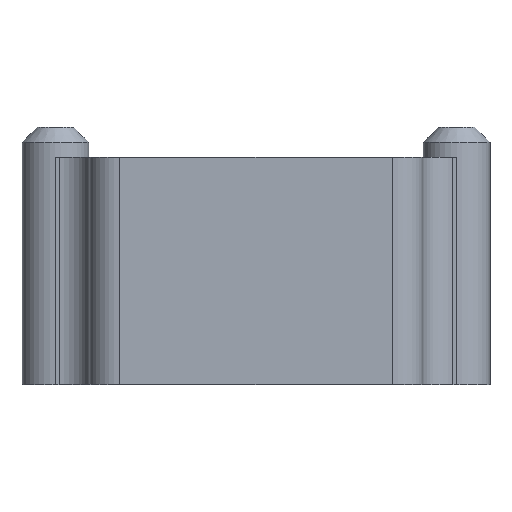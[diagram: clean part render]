
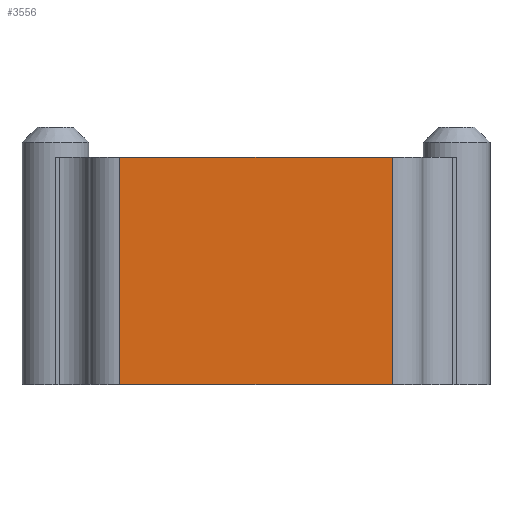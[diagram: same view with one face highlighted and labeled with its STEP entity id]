
A CAD part, top view. The second image highlights one B-rep face of the part: STEP entity #3556.
In plain terms, the highlighted planar face has unit normal (0, 0, 1).
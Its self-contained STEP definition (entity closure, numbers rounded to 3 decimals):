
#15 = PLANE ( 'NONE',  #3919 ) ;
#81 = DIRECTION ( 'NONE',  ( 0., -1., 0. ) ) ;
#220 = LINE ( 'NONE', #843, #1333 ) ;
#229 = EDGE_CURVE ( 'NONE', #1973, #427, #308, .T. ) ;
#308 = LINE ( 'NONE', #4784, #3622 ) ;
#427 = VERTEX_POINT ( 'NONE', #4664 ) ;
#465 = DIRECTION ( 'NONE',  ( 0., 0., -1. ) ) ;
#843 = CARTESIAN_POINT ( 'NONE',  ( 18., 15., 16.8 ) ) ;
#999 = DIRECTION ( 'NONE',  ( 1., 0., 0. ) ) ;
#1322 = ORIENTED_EDGE ( 'NONE', *, *, #2332, .T. ) ;
#1333 = VECTOR ( 'NONE', #4284, 1000. ) ;
#1503 = VECTOR ( 'NONE', #999, 1000. ) ;
#1664 = CARTESIAN_POINT ( 'NONE',  ( 18., 15., 16.8 ) ) ;
#1743 = CARTESIAN_POINT ( 'NONE',  ( -18., 15., 16.8 ) ) ;
#1973 = VERTEX_POINT ( 'NONE', #1743 ) ;
#1992 = EDGE_CURVE ( 'NONE', #427, #2798, #2133, .T. ) ;
#2133 = LINE ( 'NONE', #4340, #1503 ) ;
#2178 = CARTESIAN_POINT ( 'NONE',  ( -22., 15., 16.8 ) ) ;
#2205 = ORIENTED_EDGE ( 'NONE', *, *, #1992, .T. ) ;
#2209 = VECTOR ( 'NONE', #2520, 1000. ) ;
#2297 = VERTEX_POINT ( 'NONE', #1664 ) ;
#2332 = EDGE_CURVE ( 'NONE', #2798, #2297, #220, .T. ) ;
#2520 = DIRECTION ( 'NONE',  ( 1., 0., 0. ) ) ;
#2595 = LINE ( 'NONE', #2178, #2209 ) ;
#2652 = FACE_OUTER_BOUND ( 'NONE', #3043, .T. ) ;
#2798 = VERTEX_POINT ( 'NONE', #4548 ) ;
#3043 = EDGE_LOOP ( 'NONE', ( #2205, #1322, #4288, #3561 ) ) ;
#3064 = CARTESIAN_POINT ( 'NONE',  ( -22., 15., 16.8 ) ) ;
#3427 = DIRECTION ( 'NONE',  ( -1., 0., 0. ) ) ;
#3556 = ADVANCED_FACE ( 'NONE', ( #2652 ), #15, .F. ) ;
#3561 = ORIENTED_EDGE ( 'NONE', *, *, #229, .T. ) ;
#3622 = VECTOR ( 'NONE', #81, 1000. ) ;
#3919 = AXIS2_PLACEMENT_3D ( 'NONE', #3064, #465, #3427 ) ;
#4284 = DIRECTION ( 'NONE',  ( 0., 1., 0. ) ) ;
#4288 = ORIENTED_EDGE ( 'NONE', *, *, #4326, .F. ) ;
#4326 = EDGE_CURVE ( 'NONE', #1973, #2297, #2595, .T. ) ;
#4340 = CARTESIAN_POINT ( 'NONE',  ( -22., -15., 16.8 ) ) ;
#4548 = CARTESIAN_POINT ( 'NONE',  ( 18., -15., 16.8 ) ) ;
#4664 = CARTESIAN_POINT ( 'NONE',  ( -18., -15., 16.8 ) ) ;
#4784 = CARTESIAN_POINT ( 'NONE',  ( -18., 15., 16.8 ) ) ;
